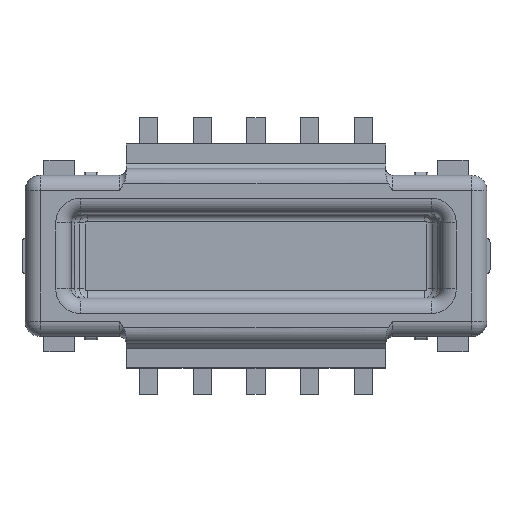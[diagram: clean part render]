
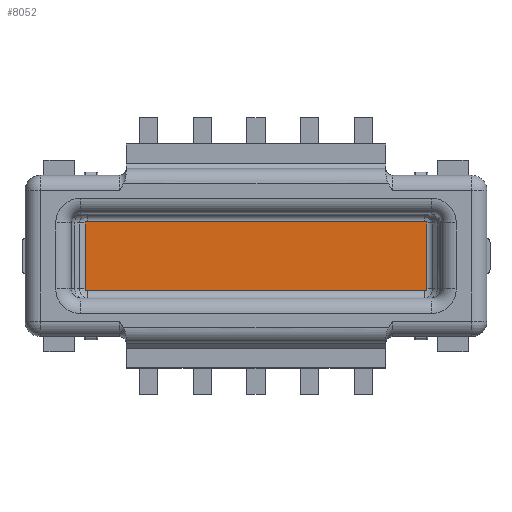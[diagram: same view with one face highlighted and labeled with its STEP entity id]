
A CAD part, top view. The second image highlights one B-rep face of the part: STEP entity #8052.
In plain terms, the highlighted planar face has unit normal (0, 0, 1).
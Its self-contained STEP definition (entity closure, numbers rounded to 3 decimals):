
#3918=CARTESIAN_POINT('Vertex',(-0.461,0.215,0.105)) ;
#3921=CARTESIAN_POINT('Line Origine',(-0.461,-0.217,0.105)) ;
#3925=CARTESIAN_POINT('Vertex',(-0.461,-0.215,0.105)) ;
#7585=CARTESIAN_POINT('Vertex',(-2.689,-0.215,0.105)) ;
#7588=CARTESIAN_POINT('Line Origine',(-2.689,-0.217,0.105)) ;
#7592=CARTESIAN_POINT('Vertex',(-2.689,0.215,0.105)) ;
#7945=CARTESIAN_POINT('Axis2P3D Location',(0.,0.,0.105)) ;
#7950=CARTESIAN_POINT('Line Origine',(-1.575,-0.225,0.105)) ;
#7954=CARTESIAN_POINT('Vertex',(-0.475,-0.225,0.105)) ;
#7956=CARTESIAN_POINT('Vertex',(-2.675,-0.225,0.105)) ;
#7960=CARTESIAN_POINT('Control Point',(-0.461,-0.215,0.105)) ;
#7961=CARTESIAN_POINT('Control Point',(-0.461,-0.216,0.105)) ;
#7962=CARTESIAN_POINT('Control Point',(-0.461,-0.217,0.105)) ;
#7963=CARTESIAN_POINT('Control Point',(-0.461,-0.218,0.105)) ;
#7964=CARTESIAN_POINT('Control Point',(-0.462,-0.219,0.105)) ;
#7965=CARTESIAN_POINT('Control Point',(-0.463,-0.221,0.105)) ;
#7966=CARTESIAN_POINT('Control Point',(-0.464,-0.221,0.105)) ;
#7967=CARTESIAN_POINT('Control Point',(-0.465,-0.222,0.105)) ;
#7968=CARTESIAN_POINT('Control Point',(-0.466,-0.223,0.105)) ;
#7969=CARTESIAN_POINT('Control Point',(-0.467,-0.223,0.105)) ;
#7970=CARTESIAN_POINT('Control Point',(-0.469,-0.224,0.105)) ;
#7971=CARTESIAN_POINT('Control Point',(-0.471,-0.225,0.105)) ;
#7972=CARTESIAN_POINT('Control Point',(-0.472,-0.225,0.105)) ;
#7973=CARTESIAN_POINT('Control Point',(-0.474,-0.225,0.105)) ;
#7974=CARTESIAN_POINT('Control Point',(-0.475,-0.225,0.105)) ;
#7977=CARTESIAN_POINT('Control Point',(-0.475,0.225,0.105)) ;
#7978=CARTESIAN_POINT('Control Point',(-0.474,0.225,0.105)) ;
#7979=CARTESIAN_POINT('Control Point',(-0.473,0.225,0.105)) ;
#7980=CARTESIAN_POINT('Control Point',(-0.472,0.225,0.105)) ;
#7981=CARTESIAN_POINT('Control Point',(-0.471,0.225,0.105)) ;
#7982=CARTESIAN_POINT('Control Point',(-0.469,0.224,0.105)) ;
#7983=CARTESIAN_POINT('Control Point',(-0.468,0.224,0.105)) ;
#7984=CARTESIAN_POINT('Control Point',(-0.467,0.223,0.105)) ;
#7985=CARTESIAN_POINT('Control Point',(-0.466,0.223,0.105)) ;
#7986=CARTESIAN_POINT('Control Point',(-0.465,0.222,0.105)) ;
#7987=CARTESIAN_POINT('Control Point',(-0.464,0.221,0.105)) ;
#7988=CARTESIAN_POINT('Control Point',(-0.463,0.22,0.105)) ;
#7989=CARTESIAN_POINT('Control Point',(-0.462,0.22,0.105)) ;
#7990=CARTESIAN_POINT('Control Point',(-0.462,0.218,0.105)) ;
#7991=CARTESIAN_POINT('Control Point',(-0.461,0.217,0.105)) ;
#7992=CARTESIAN_POINT('Control Point',(-0.461,0.216,0.105)) ;
#7993=CARTESIAN_POINT('Control Point',(-0.461,0.216,0.105)) ;
#7994=CARTESIAN_POINT('Control Point',(-0.461,0.215,0.105)) ;
#7995=CARTESIAN_POINT('Vertex',(-0.475,0.225,0.105)) ;
#7998=CARTESIAN_POINT('Line Origine',(-1.575,0.225,0.105)) ;
#8002=CARTESIAN_POINT('Vertex',(-2.675,0.225,0.105)) ;
#8006=CARTESIAN_POINT('Control Point',(-2.675,0.225,0.105)) ;
#8007=CARTESIAN_POINT('Control Point',(-2.676,0.225,0.105)) ;
#8008=CARTESIAN_POINT('Control Point',(-2.677,0.225,0.105)) ;
#8009=CARTESIAN_POINT('Control Point',(-2.678,0.225,0.105)) ;
#8010=CARTESIAN_POINT('Control Point',(-2.679,0.225,0.105)) ;
#8011=CARTESIAN_POINT('Control Point',(-2.681,0.224,0.105)) ;
#8012=CARTESIAN_POINT('Control Point',(-2.682,0.224,0.105)) ;
#8013=CARTESIAN_POINT('Control Point',(-2.683,0.223,0.105)) ;
#8014=CARTESIAN_POINT('Control Point',(-2.684,0.223,0.105)) ;
#8015=CARTESIAN_POINT('Control Point',(-2.685,0.222,0.105)) ;
#8016=CARTESIAN_POINT('Control Point',(-2.686,0.221,0.105)) ;
#8017=CARTESIAN_POINT('Control Point',(-2.687,0.22,0.105)) ;
#8018=CARTESIAN_POINT('Control Point',(-2.688,0.22,0.105)) ;
#8019=CARTESIAN_POINT('Control Point',(-2.688,0.218,0.105)) ;
#8020=CARTESIAN_POINT('Control Point',(-2.689,0.217,0.105)) ;
#8021=CARTESIAN_POINT('Control Point',(-2.689,0.216,0.105)) ;
#8022=CARTESIAN_POINT('Control Point',(-2.689,0.216,0.105)) ;
#8023=CARTESIAN_POINT('Control Point',(-2.689,0.215,0.105)) ;
#8026=CARTESIAN_POINT('Control Point',(-2.689,-0.215,0.105)) ;
#8027=CARTESIAN_POINT('Control Point',(-2.689,-0.216,0.105)) ;
#8028=CARTESIAN_POINT('Control Point',(-2.689,-0.217,0.105)) ;
#8029=CARTESIAN_POINT('Control Point',(-2.689,-0.218,0.105)) ;
#8030=CARTESIAN_POINT('Control Point',(-2.688,-0.219,0.105)) ;
#8031=CARTESIAN_POINT('Control Point',(-2.687,-0.221,0.105)) ;
#8032=CARTESIAN_POINT('Control Point',(-2.686,-0.221,0.105)) ;
#8033=CARTESIAN_POINT('Control Point',(-2.685,-0.222,0.105)) ;
#8034=CARTESIAN_POINT('Control Point',(-2.684,-0.223,0.105)) ;
#8035=CARTESIAN_POINT('Control Point',(-2.683,-0.223,0.105)) ;
#8036=CARTESIAN_POINT('Control Point',(-2.681,-0.224,0.105)) ;
#8037=CARTESIAN_POINT('Control Point',(-2.679,-0.225,0.105)) ;
#8038=CARTESIAN_POINT('Control Point',(-2.678,-0.225,0.105)) ;
#8039=CARTESIAN_POINT('Control Point',(-2.676,-0.225,0.105)) ;
#8040=CARTESIAN_POINT('Control Point',(-2.675,-0.225,0.105)) ;
#3922=DIRECTION('Vector Direction',(0.,1.,0.)) ;
#7589=DIRECTION('Vector Direction',(0.,-1.,0.)) ;
#7946=DIRECTION('Axis2P3D Direction',(0.,0.,1.)) ;
#7947=DIRECTION('Axis2P3D XDirection',(1.,0.,0.)) ;
#7951=DIRECTION('Vector Direction',(1.,0.,0.)) ;
#7999=DIRECTION('Vector Direction',(-1.,0.,0.)) ;
#7948=AXIS2_PLACEMENT_3D('Plane Axis2P3D',#7945,#7946,#7947) ;
#8043=ORIENTED_EDGE('',*,*,#7958,.F.) ;
#8044=ORIENTED_EDGE('',*,*,#7975,.F.) ;
#8045=ORIENTED_EDGE('',*,*,#3927,.T.) ;
#8046=ORIENTED_EDGE('',*,*,#7997,.F.) ;
#8047=ORIENTED_EDGE('',*,*,#8004,.F.) ;
#8048=ORIENTED_EDGE('',*,*,#8024,.T.) ;
#8049=ORIENTED_EDGE('',*,*,#7594,.F.) ;
#8050=ORIENTED_EDGE('',*,*,#8041,.T.) ;
#3923=VECTOR('Line Direction',#3922,1.) ;
#7590=VECTOR('Line Direction',#7589,1.) ;
#7952=VECTOR('Line Direction',#7951,1.) ;
#8000=VECTOR('Line Direction',#7999,1.) ;
#8052=ADVANCED_FACE('MANIFOLD_SOLID_BREP #11608',(#8051),#7949,.T.) ;
#7959=B_SPLINE_CURVE_WITH_KNOTS('',5,(#7960,#7961,#7962,#7963,#7964,#7965,#7966,#7967,#7968,#7969,#7970,#7971,#7972,#7973,#7974),.UNSPECIFIED.,.F.,.U.,(6,3,3,3,6),(0.,0.007,0.012,0.018,0.027),.UNSPECIFIED.) ;
#7976=B_SPLINE_CURVE_WITH_KNOTS('',5,(#7977,#7978,#7979,#7980,#7981,#7982,#7983,#7984,#7985,#7986,#7987,#7988,#7989,#7990,#7991,#7992,#7993,#7994),.UNSPECIFIED.,.F.,.U.,(6,3,3,3,3,6),(0.,0.006,0.011,0.017,0.022,0.027),.UNSPECIFIED.) ;
#8005=B_SPLINE_CURVE_WITH_KNOTS('',5,(#8006,#8007,#8008,#8009,#8010,#8011,#8012,#8013,#8014,#8015,#8016,#8017,#8018,#8019,#8020,#8021,#8022,#8023),.UNSPECIFIED.,.F.,.U.,(6,3,3,3,3,6),(0.,0.006,0.011,0.017,0.022,0.027),.UNSPECIFIED.) ;
#8025=B_SPLINE_CURVE_WITH_KNOTS('',5,(#8026,#8027,#8028,#8029,#8030,#8031,#8032,#8033,#8034,#8035,#8036,#8037,#8038,#8039,#8040),.UNSPECIFIED.,.F.,.U.,(6,3,3,3,6),(0.,0.007,0.012,0.018,0.027),.UNSPECIFIED.) ;
#3927=EDGE_CURVE('',#3926,#3919,#3924,.T.) ;
#7594=EDGE_CURVE('',#7586,#7593,#7591,.F.) ;
#7958=EDGE_CURVE('',#7955,#7957,#7953,.F.) ;
#7975=EDGE_CURVE('',#3926,#7955,#7959,.T.) ;
#7997=EDGE_CURVE('',#7996,#3919,#7976,.T.) ;
#8004=EDGE_CURVE('',#8003,#7996,#8001,.F.) ;
#8024=EDGE_CURVE('',#8003,#7593,#8005,.T.) ;
#8041=EDGE_CURVE('',#7586,#7957,#8025,.T.) ;
#8042=EDGE_LOOP('',(#8043,#8044,#8045,#8046,#8047,#8048,#8049,#8050)) ;
#8051=FACE_OUTER_BOUND('',#8042,.T.) ;
#3924=LINE('Line',#3921,#3923) ;
#7591=LINE('Line',#7588,#7590) ;
#7953=LINE('Line',#7950,#7952) ;
#8001=LINE('Line',#7998,#8000) ;
#7949=PLANE('Plane',#7948) ;
#3919=VERTEX_POINT('',#3918) ;
#3926=VERTEX_POINT('',#3925) ;
#7586=VERTEX_POINT('',#7585) ;
#7593=VERTEX_POINT('',#7592) ;
#7955=VERTEX_POINT('',#7954) ;
#7957=VERTEX_POINT('',#7956) ;
#7996=VERTEX_POINT('',#7995) ;
#8003=VERTEX_POINT('',#8002) ;
